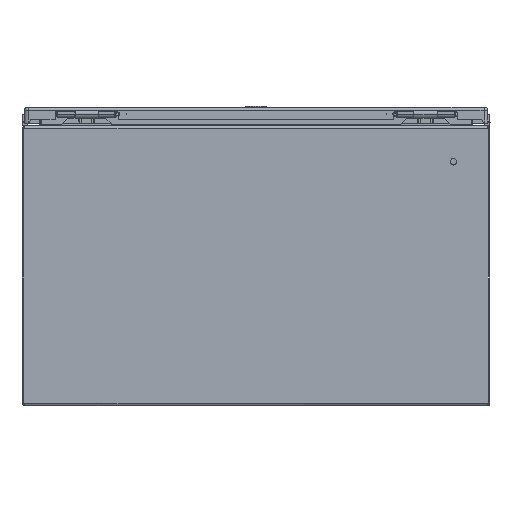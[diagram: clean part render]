
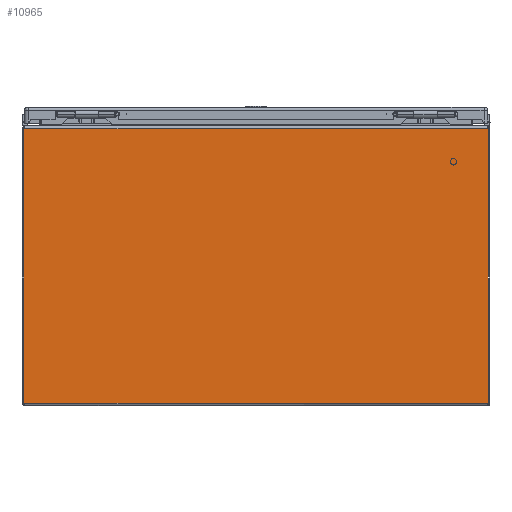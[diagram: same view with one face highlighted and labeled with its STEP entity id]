
A CAD part, left-side view. The second image highlights one B-rep face of the part: STEP entity #10965.
In plain terms, the highlighted planar face has unit normal (-1, 0, 0).
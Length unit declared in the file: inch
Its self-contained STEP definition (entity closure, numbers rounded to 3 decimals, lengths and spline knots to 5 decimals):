
#9822 = ORIENTED_EDGE ( 'NONE', *, *, #46000, .T. ) ;
#9823 = ORIENTED_EDGE ( 'NONE', *, *, #46015, .F. ) ;
#9824 = ORIENTED_EDGE ( 'NONE', *, *, #45957, .T. ) ;
#9825 = ORIENTED_EDGE ( 'NONE', *, *, #46018, .T. ) ;
#10965 = ADVANCED_FACE ( 'NONE', ( #14429 ), #31978, .T. ) ;
#11283 = CARTESIAN_POINT ( 'NONE',  ( -10., -9.93793, 0.106 ) ) ;
#11285 = CARTESIAN_POINT ( 'NONE',  ( -10., -9.93793, 11.855 ) ) ;
#11315 = CARTESIAN_POINT ( 'NONE',  ( -10., 9.93793, 11.855 ) ) ;
#11317 = CARTESIAN_POINT ( 'NONE',  ( -10., 9.93793, 0.106 ) ) ;
#13596 = VERTEX_POINT ( 'NONE', #11283 ) ;
#13598 = VERTEX_POINT ( 'NONE', #11285 ) ;
#13628 = VERTEX_POINT ( 'NONE', #11315 ) ;
#13630 = VERTEX_POINT ( 'NONE', #11317 ) ;
#14429 = FACE_OUTER_BOUND ( 'NONE', #29018, .T. ) ;
#19449 = CARTESIAN_POINT ( 'NONE',  ( -10., 9.93793, 11.855 ) ) ;
#19450 = DIRECTION ( 'NONE',  ( 0., 0., -1. ) ) ;
#19557 = CARTESIAN_POINT ( 'NONE',  ( -10., -9.93793, 11.855 ) ) ;
#19558 = DIRECTION ( 'NONE',  ( 0., 0., 1. ) ) ;
#19591 = CARTESIAN_POINT ( 'NONE',  ( -10., 110., 11.855 ) ) ;
#19592 = DIRECTION ( 'NONE',  ( 0., -1., 0. ) ) ;
#19593 = CARTESIAN_POINT ( 'NONE',  ( -10., 110., 0.106 ) ) ;
#19599 = DIRECTION ( 'NONE',  ( 0., -1., 0. ) ) ;
#24925 = AXIS2_PLACEMENT_3D ( 'NONE', #31979, #31984, #31985 ) ;
#29018 = EDGE_LOOP ( 'NONE', ( #9822, #9823, #9824, #9825 ) ) ;
#31122 = VECTOR ( 'NONE', #19450, 39.37008 ) ;
#31129 = LINE ( 'NONE', #19449, #31122 ) ;
#31265 = LINE ( 'NONE', #19557, #31273 ) ;
#31273 = VECTOR ( 'NONE', #19558, 39.37008 ) ;
#31311 = LINE ( 'NONE', #19591, #31323 ) ;
#31321 = LINE ( 'NONE', #19593, #31340 ) ;
#31323 = VECTOR ( 'NONE', #19592, 39.37008 ) ;
#31340 = VECTOR ( 'NONE', #19599, 39.37008 ) ;
#31978 = PLANE ( 'NONE',  #24925 ) ;
#31979 = CARTESIAN_POINT ( 'NONE',  ( -10., 110., 11.855 ) ) ;
#31984 = DIRECTION ( 'NONE',  ( -1., 0., 0. ) ) ;
#31985 = DIRECTION ( 'NONE',  ( 0., 0., -1. ) ) ;
#45957 = EDGE_CURVE ( 'NONE', #13628, #13630, #31129, .T. ) ;
#46000 = EDGE_CURVE ( 'NONE', #13596, #13598, #31265, .T. ) ;
#46015 = EDGE_CURVE ( 'NONE', #13628, #13598, #31311, .T. ) ;
#46018 = EDGE_CURVE ( 'NONE', #13630, #13596, #31321, .T. ) ;
